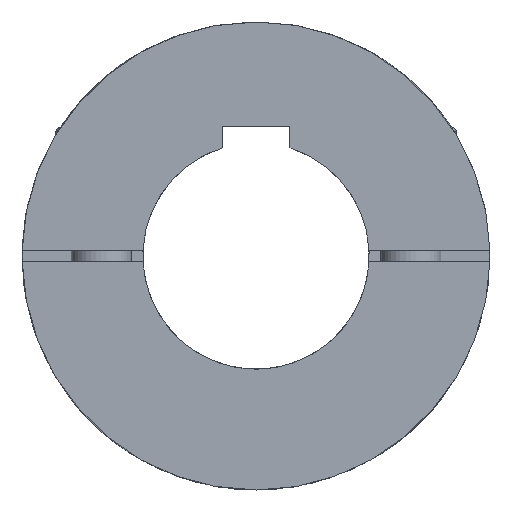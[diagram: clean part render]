
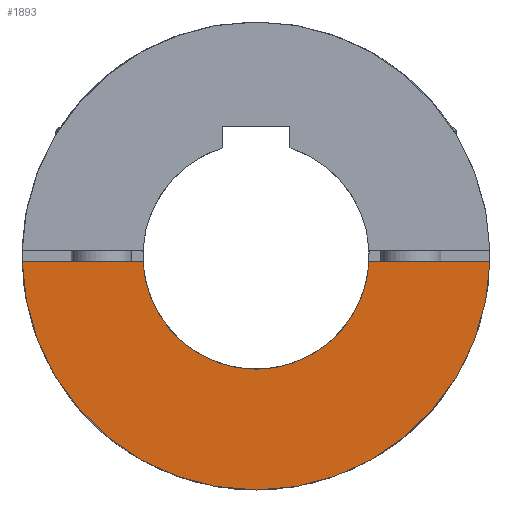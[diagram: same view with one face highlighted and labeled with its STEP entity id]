
A CAD part, left-side view. The second image highlights one B-rep face of the part: STEP entity #1893.
In plain terms, the highlighted planar face has unit normal (-1, 0, 0).
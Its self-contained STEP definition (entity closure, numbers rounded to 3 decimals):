
#64=PLANE('',#2134);
#237=FACE_OUTER_BOUND('',#377,.T.);
#377=EDGE_LOOP('',(#1676,#1677,#1678,#1679));
#470=LINE('',#3440,#613);
#516=LINE('',#3550,#659);
#613=VECTOR('',#2535,44.546);
#659=VECTOR('',#2661,44.546);
#697=CIRCLE('',#1940,62.);
#803=CIRCLE('',#2083,30.);
#807=VERTEX_POINT('',#2751);
#808=VERTEX_POINT('',#2753);
#929=VERTEX_POINT('',#3393);
#930=VERTEX_POINT('',#3394);
#991=EDGE_CURVE('',#807,#808,#697,.T.);
#1145=EDGE_CURVE('',#929,#930,#803,.T.);
#1170=EDGE_CURVE('',#807,#929,#470,.T.);
#1216=EDGE_CURVE('',#930,#808,#516,.T.);
#1676=ORIENTED_EDGE('',*,*,#1145,.T.);
#1677=ORIENTED_EDGE('',*,*,#1216,.T.);
#1678=ORIENTED_EDGE('',*,*,#991,.F.);
#1679=ORIENTED_EDGE('',*,*,#1170,.T.);
#1893=ADVANCED_FACE('',(#237),#64,.T.);
#1940=AXIS2_PLACEMENT_3D('',#2754,#2166,#2167);
#2083=AXIS2_PLACEMENT_3D('',#3395,#2488,#2489);
#2134=AXIS2_PLACEMENT_3D('',#3549,#2659,#2660);
#2166=DIRECTION('center_axis',(1.,0.,0.));
#2167=DIRECTION('ref_axis',(0.,0.,-1.));
#2488=DIRECTION('center_axis',(1.,0.,0.));
#2489=DIRECTION('ref_axis',(0.,0.,1.));
#2535=DIRECTION('',(0.,1.,0.));
#2659=DIRECTION('center_axis',(-1.,0.,0.));
#2660=DIRECTION('ref_axis',(0.,-1.,0.));
#2661=DIRECTION('',(0.,1.,0.));
#2751=CARTESIAN_POINT('',(0.,-61.982,-1.5));
#2753=CARTESIAN_POINT('',(0.,61.982,-1.5));
#2754=CARTESIAN_POINT('Origin',(0.,0.,0.));
#3393=CARTESIAN_POINT('',(0.,-29.962,-1.5));
#3394=CARTESIAN_POINT('',(0.,29.962,-1.5));
#3395=CARTESIAN_POINT('Origin',(0.,0.,0.));
#3440=CARTESIAN_POINT('',(0.,-61.982,-1.5));
#3549=CARTESIAN_POINT('Origin',(0.,0.,-17.5));
#3550=CARTESIAN_POINT('',(0.,17.436,-1.5));
